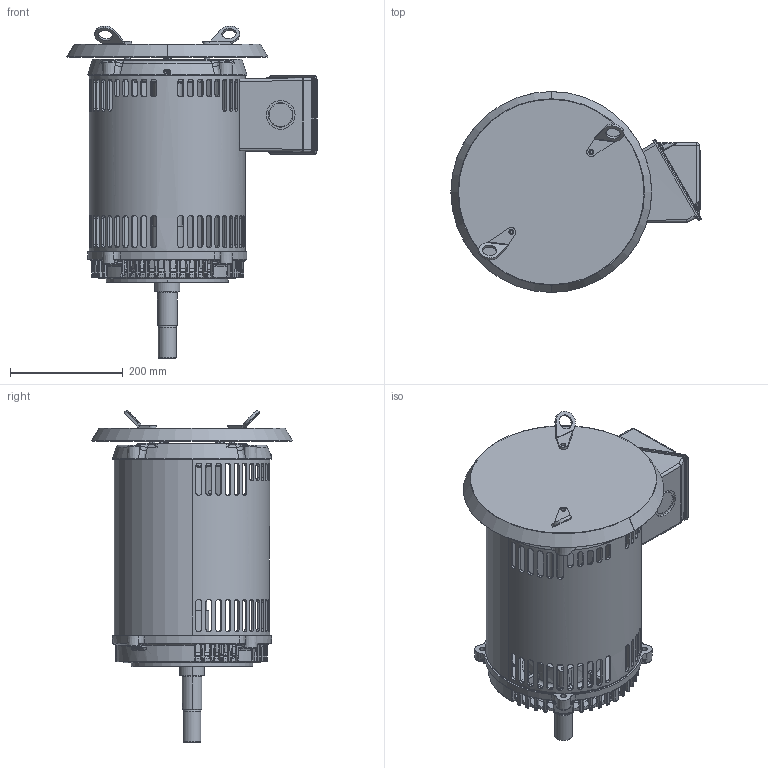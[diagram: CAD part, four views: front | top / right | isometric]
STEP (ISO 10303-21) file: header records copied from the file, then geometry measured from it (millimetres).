
FILE_DESCRIPTION((''),'2;1');
FILE_NAME('250_ODP_CFACE_ASM_ASM','2018-10-10T13:29:03',('emd2341'),('Nidec Motor Corporation'),'CREO PARAMETRIC BY PTC INC, 2018020','CREO PARAMETRIC BY PTC INC, 2018020','');
FILE_SCHEMA(('CONFIG_CONTROL_DESIGN'));
Length unit declared in the file: inch
Products named in the file (13): 2046004_AF2; 2035295-BKT_AF0; 2033996-005_AF0; 2028415_ASM; 2046094; 0183520; 2075307; PRT0001; PRT0002; 0369733; 0364282; 0364292; 250_ODP_CFACE_ASM_ASM
Assembly tree (14 placements, depth 3):
  250_ODP_CFACE_ASM_ASM
    2046004_AF2
    2028415_ASM
      2035295-BKT_AF0
      2033996-005_AF0
    2046094
    0183520
    2075307
    PRT0001  x2
    PRT0002
    0369733  x2
    0364282
    0364292
Bounding box: 443.04 x 355.6 x 587.65 mm (x, y, z)
Volume: 4129341.4 mm3; surface area: 1554313.6 mm2
Topology: 15 solids, 22 shells, 3862 faces, 9557 edges, 5708 vertices
Faces by surface type: bspline 1381, cylinder 951, plane 725, torus 371, cone 353, sphere 73, extrusion 8
Entity records: 189812 total; most frequent: CARTESIAN_POINT 108500, ORIENTED_EDGE 18938, DIRECTION 14185, EDGE_CURVE 9484, VERTEX_POINT 5676, AXIS2_PLACEMENT_3D 5666, EDGE_LOOP 4124, FACE_OUTER_BOUND 3838
